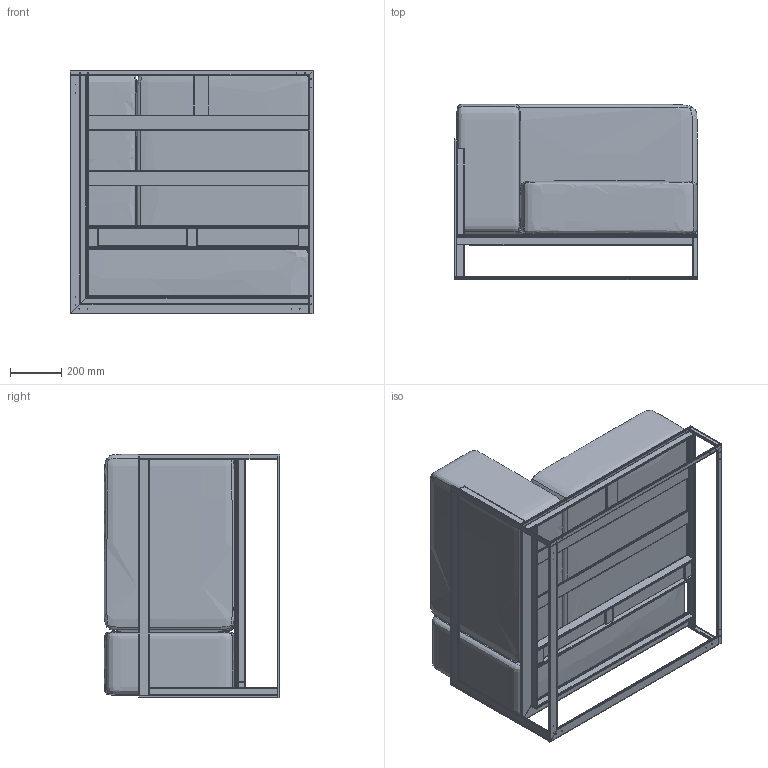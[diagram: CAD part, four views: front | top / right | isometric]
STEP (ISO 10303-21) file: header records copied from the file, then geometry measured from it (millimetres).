
FILE_DESCRIPTION(/* description */ (''),/* implementation_level */ '2;1');
FILE_NAME(/* name */ 'C:\INVENTOR\Workspace\# ARKITEKT FILER\Moore Sofa\Garden Moore Corner.stp',/* time_stamp */ '2020-06-08T10:37:58+02:00',/* author */ ('Röshults'),/* organization */ (''),/* preprocessor_version */ 'ST-DEVELOPER v17.2',/* originating_system */ 'Autodesk Inventor 2019',/* authorisation */ '');
FILE_SCHEMA (('AUTOMOTIVE_DESIGN { 1 0 10303 214 3 1 1 }'));
Length unit declared in the file: millimetre
Products named in the file (39): Garden Moore Corner; 100573; Frame 1583759788207; Skeleton 1583759788208; CSN EN 10305-5 - 40 x 10 x 1,5  - 930; CSN EN 10305-5 - 40 x 10 x 1,5  - 930_1; CSN EN 10305-5 - 40 x 10 x 1,5  - 920; CSN EN 10305-5 - 40 x 10 x 1,5  - 930_2; CSN EN 10305-5 - 40 x 10 x 1,5  - 860; CSN EN 10305-5 - 40 x 10 x 1,5  - 860_1; CSN EN 10305-5 - 40 x 10 x 1,5  - 72; CSN EN 10305-5 - 40 x 10 x 1,5  - 72_1; CSN EN 10305-5 - 40 x 10 x 1,5  - 72_2; CSN EN 10305-5 - 40 x 10 x 1,5  - 540; CSN EN 10305-5 - 60 x 10 x 1,5  - 920; CSN EN 10305-5 - 60 x 10 x 1,5  - 920_1; CSN EN 10305-5 - 60 x 10 x 1,5  - 860; CSN EN 10305-5 - 60 x 10 x 1,5  - 860_1; CSN EN 10305-5 - 20 x 10 x 1,5  - 538,5; CSN EN 10305-5 - 20 x 10 x 1,5  - 538,5_1; CSN EN 10305-5 - 20 x 10 x 1,5  - 948,5; CSN EN 10305-5 - 20 x 10 x 1,5  - 948,5_1; CSN EN 10305-5 - 20 x 10 x 1,5  - 155; CSN EN 10305-5 - 20 x 10 x 1,5  - 940; CSN EN 10305-5 - 20 x 10 x 1,5  - 940_1; CSN EN 10305-5 - 30 x 10 x 1,5  - 870; CSN EN 10305-5 - 30 x 10 x 1,5  - 920; CSN EN 10305-5 - 30 x 10 x 1,5  - 930; CSN EN 10305-5 - 30 x 10 x 1,5  - 870_1; CSN EN 10305-5 - 30 x 10 x 1,5  - 335; CSN EN 10305-5 - 30 x 10 x 1,5  - 335_1; CSN EN 10305-5 - 30 x 10 x 1,5  - 500; CSN EN 10305-5 - 60 x 10 x 1,5  - 155; End Cap 20x10; End Cap 30x10; 100530; 100759-3; 100759-4; 100759-5
Assembly tree (42 placements, depth 4):
  Garden Moore Corner
    100573
      Frame 1583759788207
        Skeleton 1583759788208
        CSN EN 10305-5 - 40 x 10 x 1,5  - 930
        CSN EN 10305-5 - 40 x 10 x 1,5  - 930_1
        CSN EN 10305-5 - 40 x 10 x 1,5  - 920
        CSN EN 10305-5 - 40 x 10 x 1,5  - 930_2
        CSN EN 10305-5 - 40 x 10 x 1,5  - 860
        CSN EN 10305-5 - 40 x 10 x 1,5  - 860_1
        CSN EN 10305-5 - 40 x 10 x 1,5  - 72
        CSN EN 10305-5 - 40 x 10 x 1,5  - 72_1
        CSN EN 10305-5 - 40 x 10 x 1,5  - 72_2
        CSN EN 10305-5 - 40 x 10 x 1,5  - 540
        CSN EN 10305-5 - 60 x 10 x 1,5  - 920
        CSN EN 10305-5 - 60 x 10 x 1,5  - 920_1
        CSN EN 10305-5 - 60 x 10 x 1,5  - 860
        CSN EN 10305-5 - 60 x 10 x 1,5  - 860_1
        CSN EN 10305-5 - 20 x 10 x 1,5  - 538,5
        CSN EN 10305-5 - 20 x 10 x 1,5  - 538,5_1
        CSN EN 10305-5 - 20 x 10 x 1,5  - 948,5
        CSN EN 10305-5 - 20 x 10 x 1,5  - 948,5_1
        CSN EN 10305-5 - 20 x 10 x 1,5  - 155
        CSN EN 10305-5 - 20 x 10 x 1,5  - 940
        CSN EN 10305-5 - 20 x 10 x 1,5  - 940_1
        CSN EN 10305-5 - 30 x 10 x 1,5  - 870
        CSN EN 10305-5 - 30 x 10 x 1,5  - 920
        CSN EN 10305-5 - 30 x 10 x 1,5  - 930
        CSN EN 10305-5 - 30 x 10 x 1,5  - 870_1
        CSN EN 10305-5 - 30 x 10 x 1,5  - 335
        CSN EN 10305-5 - 30 x 10 x 1,5  - 335_1
        CSN EN 10305-5 - 30 x 10 x 1,5  - 500
        CSN EN 10305-5 - 60 x 10 x 1,5  - 155
      End Cap 20x10  x4
      End Cap 30x10  x2
    100530
    100759-3
    100759-4
    100759-5
Bounding box: 950 x 685 x 950.36 mm (x, y, z)
Volume: 305972539.7 mm3; surface area: 7679728.1 mm2
Topology: 39 solids, 39 shells, 650 faces, 1724 edges, 1152 vertices
Faces by surface type: plane 336, cylinder 288, bspline 18, sphere 8
Full cylindrical faces by diameter (mm): 3.242 x16
Entity records: 27870 total; most frequent: CARTESIAN_POINT 10563, DIRECTION 3510, ORIENTED_EDGE 3256, EDGE_CURVE 1628, AXIS2_PLACEMENT_3D 1249, VERTEX_POINT 1088, LINE 1012, VECTOR 1012
